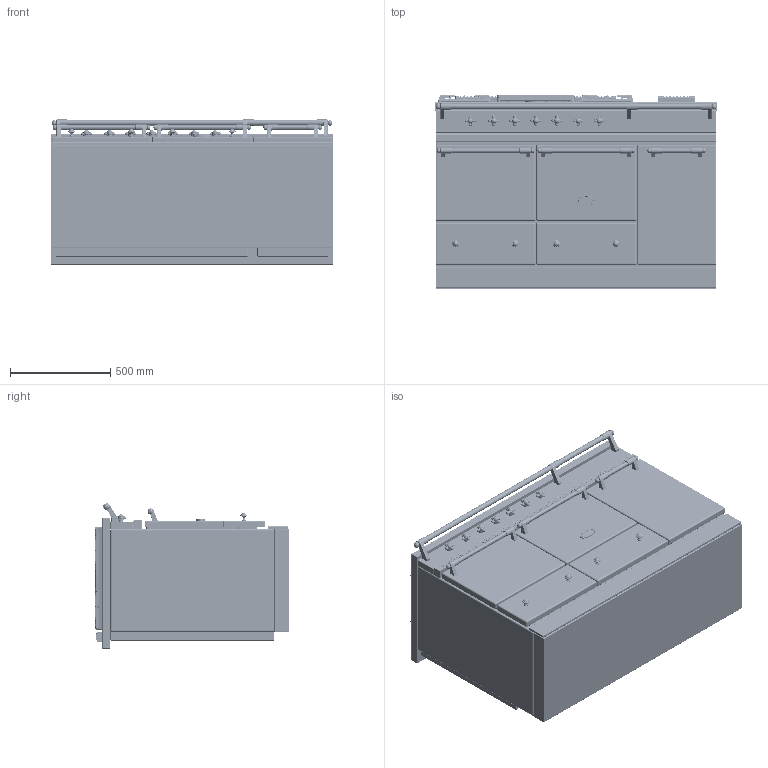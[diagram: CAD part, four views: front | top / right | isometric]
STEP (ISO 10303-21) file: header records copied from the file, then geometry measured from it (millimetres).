
FILE_DESCRIPTION((''),'2;1');
FILE_NAME('LCF1452D_ASM','2021-12-01T15:21:49',('r.avril'),(''),'CREO PARAMETRIC BY PTC INC, 2017260','CREO PARAMETRIC BY PTC INC, 2017260','');
FILE_SCHEMA(('AP203_CONFIGURATION_CONTROLLED_3D_DESIGN_OF_MECHANICAL_PARTS_AND_ASSEMBLIES_MIM_LF { 1 0 10303 403 2 1 2 }'));
Products named in the file (29): BASE_EXPORT_CLUNY_1400D; 65650003; 65650004; 6531940; 6531941; 6538399; 1931942; 65080022_AF0; 6531942_ASM; 6531943; 65049009; 65650001; 65650006; BASE_EXPORT_CLUNY_1400D_ASM; TABLE_1405D_CLASSIQUE; 3KW; 5KW; 1_5KW; 4KW; 65062008; 65062012; 65149005; 90000549_ASM; 6537023; 90000565_ASM; CHEMINEE_2020_LG371_EXPORT_STEP; CHEMINEE_2020_LG182_EXPORT_STEP; TABLE_1405D_TRADITION_ASM; LCF1452D_ASM
Assembly tree (51 placements, depth 4):
  LCF1452D_ASM
    BASE_EXPORT_CLUNY_1400D_ASM
      BASE_EXPORT_CLUNY_1400D
      65650003
      65650004
      6531940  x3
      6531941  x3
      6531942_ASM  x7
        6538399
        1931942
        65080022_AF0
      6531943  x4
      65049009
      65650001
      65650006
    TABLE_1405D_TRADITION_ASM
      TABLE_1405D_CLASSIQUE
      3KW  x2
      5KW
      1_5KW
      4KW
      90000549_ASM
        65062008
        65062012
        65149005  x4
      90000565_ASM  x2
        6537023
        65149005
      CHEMINEE_2020_LG371_EXPORT_STEP  x2
      CHEMINEE_2020_LG182_EXPORT_STEP
Bounding box: 1405 x 967 x 724 mm (x, y, z)
Volume: 510707503.6 mm3; surface area: 13238546.3 mm2
Topology: 70 solids, 83 shells, 9447 faces, 24523 edges, 15226 vertices
Faces by surface type: plane 4441, cylinder 2673, bspline 1021, torus 400, sphere 332, cone 326, extrusion 238, revolution 16
Entity records: 236640 total; most frequent: CARTESIAN_POINT 62694, ORIENTED_EDGE 29182, DIRECTION 26993, EDGE_CURVE 14603, PRESENTATION_STYLE_ASSIGNMENT 9530, VECTOR 9509, STYLED_ITEM 9507, LINE 9459
